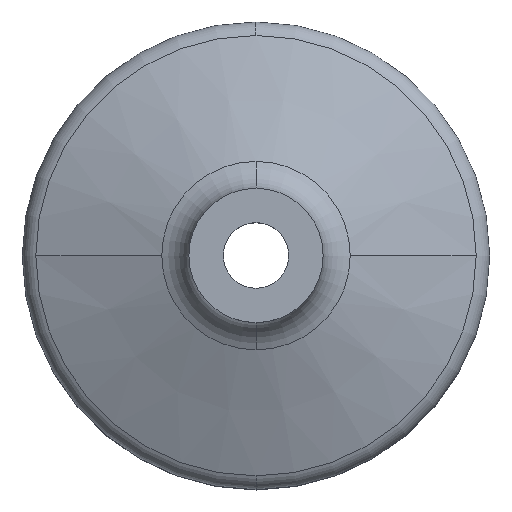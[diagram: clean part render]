
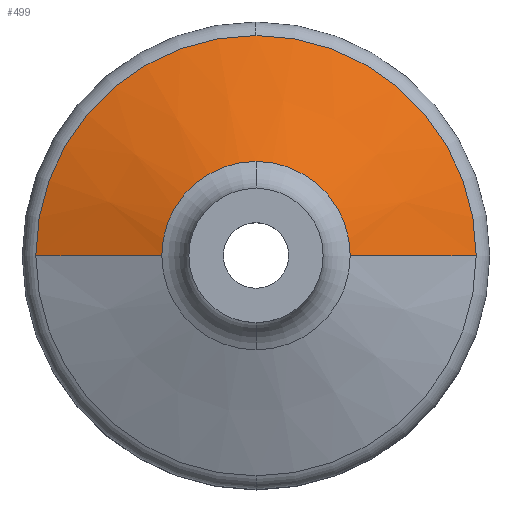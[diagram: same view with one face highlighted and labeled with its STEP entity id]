
A CAD part, top view. The second image highlights one B-rep face of the part: STEP entity #499.
In plain terms, the highlighted conical face has half-angle 68.9 degrees and reference radius 29.727 mm.
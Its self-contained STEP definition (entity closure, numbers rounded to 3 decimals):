
#499=ADVANCED_FACE('',(#1301),#1302,.T.);
#631=VERTEX_POINT('',#1448);
#635=VERTEX_POINT('',#1452);
#637=EDGE_CURVE('',#631,#635,#1454,.T.);
#727=VERTEX_POINT('',#1544);
#729=EDGE_CURVE('',#635,#727,#1546,.T.);
#941=VERTEX_POINT('',#1758);
#943=EDGE_CURVE('',#941,#727,#1760,.T.);
#949=VERTEX_POINT('',#1766);
#953=EDGE_CURVE('',#631,#949,#1770,.T.);
#967=VERTEX_POINT('',#1784);
#971=EDGE_CURVE('',#949,#967,#1788,.T.);
#1095=EDGE_CURVE('',#967,#941,#1912,.T.);
#1301=FACE_OUTER_BOUND('',#2108,.T.);
#1302=CONICAL_SURFACE('',#2109,29.727,1.203);
#1448=CARTESIAN_POINT('',(-41.637,0.,64.232));
#1452=CARTESIAN_POINT('',(0.,41.637,64.232));
#1454=CIRCLE('',#2288,41.637);
#1544=CARTESIAN_POINT('',(41.637,0.,64.232));
#1546=CIRCLE('',#2407,41.637);
#1758=CARTESIAN_POINT('',(17.817,0.,73.423));
#1760=LINE('',#2700,#2701);
#1766=CARTESIAN_POINT('',(-17.817,0.,73.423));
#1770=LINE('',#2714,#2715);
#1784=CARTESIAN_POINT('',(0.,17.817,73.423));
#1788=CIRCLE('',#2738,17.817);
#1912=CIRCLE('',#2915,17.817);
#2108=EDGE_LOOP('',(#3446,#3447,#3448,#3449,#3450,#3451));
#2109=AXIS2_PLACEMENT_3D('',#3452,#3453,#3454);
#2288=AXIS2_PLACEMENT_3D('',#3663,#3664,#3665);
#2407=AXIS2_PLACEMENT_3D('',#3744,#3745,#3746);
#2700=CARTESIAN_POINT('',(29.727,0.,68.828));
#2701=VECTOR('',#3931,1.0);
#2714=CARTESIAN_POINT('',(-29.727,0.,68.828));
#2715=VECTOR('',#3938,1.0);
#2738=AXIS2_PLACEMENT_3D('',#3951,#3952,#3953);
#2915=AXIS2_PLACEMENT_3D('',#4050,#4051,#4052);
#3446=ORIENTED_EDGE('',*,*,#943,.T.);
#3447=ORIENTED_EDGE('',*,*,#729,.F.);
#3448=ORIENTED_EDGE('',*,*,#637,.F.);
#3449=ORIENTED_EDGE('',*,*,#953,.T.);
#3450=ORIENTED_EDGE('',*,*,#971,.T.);
#3451=ORIENTED_EDGE('',*,*,#1095,.T.);
#3452=CARTESIAN_POINT('',(0.0,0.,68.828));
#3453=DIRECTION('',(0.0,0.,-1.0));
#3454=DIRECTION('',(1.0,0.0,0.0));
#3663=CARTESIAN_POINT('',(0.0,0.,64.232));
#3664=DIRECTION('',(0.0,0.,-1.0));
#3665=DIRECTION('',(1.0,0.0,0.0));
#3744=CARTESIAN_POINT('',(0.0,0.,64.232));
#3745=DIRECTION('',(0.0,0.,-1.0));
#3746=DIRECTION('',(1.0,0.0,0.0));
#3931=DIRECTION('',(0.933,0.,-0.36));
#3938=DIRECTION('',(0.933,0.,0.36));
#3951=CARTESIAN_POINT('',(0.0,0.,73.423));
#3952=DIRECTION('',(0.0,0.,-1.0));
#3953=DIRECTION('',(1.0,0.0,0.0));
#4050=CARTESIAN_POINT('',(0.0,0.,73.423));
#4051=DIRECTION('',(0.0,0.,-1.0));
#4052=DIRECTION('',(1.0,0.0,0.0));
